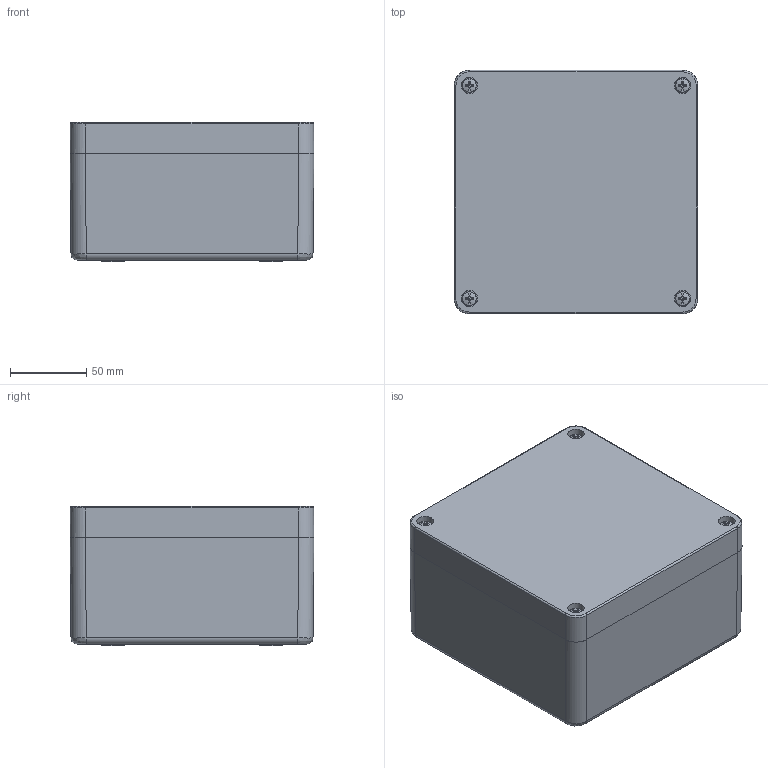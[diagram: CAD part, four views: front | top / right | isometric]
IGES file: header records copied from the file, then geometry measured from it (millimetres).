
Global section: file name: 1590ZGRP161.iam; native system: Autodesk Inventor 2016; preprocessor: unknown; author: kbond; date: 20160202.082029; units: millimetre
Bounding box: 160 x 160 x 91.3 mm (x, y, z)
Volume: 712756.7 mm3; surface area: 269906 mm2
Topology: 8 solids, 8 shells, 483 faces, 1244 edges, 822 vertices
Faces by surface type: plane 225, revolution 166, cylinder 40, cone 36, bspline 8, sphere 8
Full cylindrical faces by diameter (mm): 4.8 x8, 5.28 x4, 5.88 x4
